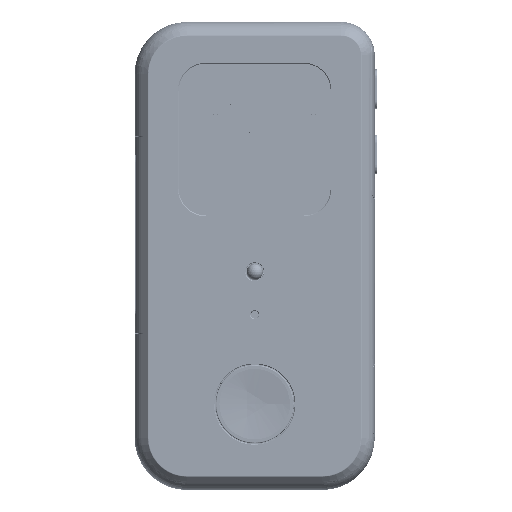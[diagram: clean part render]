
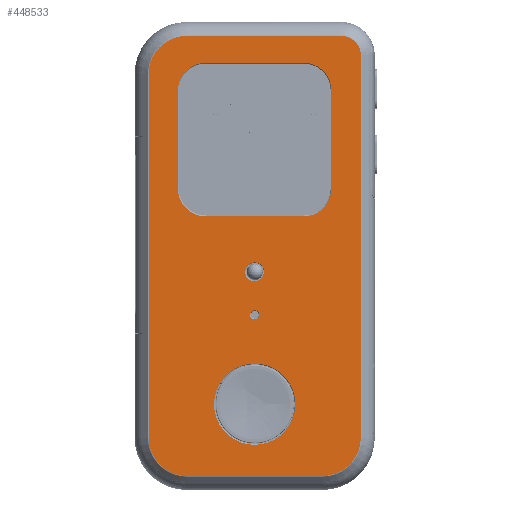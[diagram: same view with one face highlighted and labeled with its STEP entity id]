
A CAD part, top view. The second image highlights one B-rep face of the part: STEP entity #448533.
In plain terms, the highlighted planar face has unit normal (0, 0, 1).
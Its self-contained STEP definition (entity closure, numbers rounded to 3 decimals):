
#448001 = VERTEX_POINT('',#448002);
#448002 = CARTESIAN_POINT('',(21.,130.,19.4));
#448010 = VERTEX_POINT('',#448011);
#448011 = CARTESIAN_POINT('',(51.,130.,19.4));
#448017 = EDGE_CURVE('',#448001,#448010,#448018,.T.);
#448018 = LINE('',#448019,#448020);
#448019 = CARTESIAN_POINT('',(21.,130.,19.4));
#448020 = VECTOR('',#448021,1.);
#448021 = DIRECTION('',(1.,0.,0.));
#448466 = VERTEX_POINT('',#448467);
#448467 = CARTESIAN_POINT('',(59.5,121.5,19.4));
#448473 = EDGE_CURVE('',#448010,#448466,#448474,.T.);
#448474 = CIRCLE('',#448475,8.5);
#448475 = AXIS2_PLACEMENT_3D('',#448476,#448477,#448478);
#448476 = CARTESIAN_POINT('',(51.,121.5,19.4));
#448477 = DIRECTION('',(0.,0.,-1.));
#448478 = DIRECTION('',(0.,1.,0.));
#448513 = VERTEX_POINT('',#448514);
#448514 = CARTESIAN_POINT('',(12.5,121.5,19.4));
#448522 = EDGE_CURVE('',#448513,#448001,#448523,.T.);
#448523 = CIRCLE('',#448524,8.5);
#448524 = AXIS2_PLACEMENT_3D('',#448525,#448526,#448527);
#448525 = CARTESIAN_POINT('',(21.,121.5,19.4));
#448526 = DIRECTION('',(0.,0.,-1.));
#448527 = DIRECTION('',(-1.,0.,0.));
#448533 = ADVANCED_FACE('',(#448534,#448579,#448685,#448696,#448707),
  #448718,.T.);
#448534 = FACE_BOUND('',#448535,.T.);
#448535 = EDGE_LOOP('',(#448536,#448537,#448538,#448546,#448555,#448563,
    #448572,#448578));
#448536 = ORIENTED_EDGE('',*,*,#448017,.T.);
#448537 = ORIENTED_EDGE('',*,*,#448473,.T.);
#448538 = ORIENTED_EDGE('',*,*,#448539,.T.);
#448539 = EDGE_CURVE('',#448466,#448540,#448542,.T.);
#448540 = VERTEX_POINT('',#448541);
#448541 = CARTESIAN_POINT('',(59.5,91.5,19.4));
#448542 = LINE('',#448543,#448544);
#448543 = CARTESIAN_POINT('',(59.5,121.5,19.4));
#448544 = VECTOR('',#448545,1.);
#448545 = DIRECTION('',(0.,-1.,0.));
#448546 = ORIENTED_EDGE('',*,*,#448547,.T.);
#448547 = EDGE_CURVE('',#448540,#448548,#448550,.T.);
#448548 = VERTEX_POINT('',#448549);
#448549 = CARTESIAN_POINT('',(51.,83.,19.4));
#448550 = CIRCLE('',#448551,8.5);
#448551 = AXIS2_PLACEMENT_3D('',#448552,#448553,#448554);
#448552 = CARTESIAN_POINT('',(51.,91.5,19.4));
#448553 = DIRECTION('',(0.,0.,-1.));
#448554 = DIRECTION('',(1.,0.,0.));
#448555 = ORIENTED_EDGE('',*,*,#448556,.T.);
#448556 = EDGE_CURVE('',#448548,#448557,#448559,.T.);
#448557 = VERTEX_POINT('',#448558);
#448558 = CARTESIAN_POINT('',(21.,83.,19.4));
#448559 = LINE('',#448560,#448561);
#448560 = CARTESIAN_POINT('',(51.,83.,19.4));
#448561 = VECTOR('',#448562,1.);
#448562 = DIRECTION('',(-1.,-0.,-0.));
#448563 = ORIENTED_EDGE('',*,*,#448564,.T.);
#448564 = EDGE_CURVE('',#448557,#448565,#448567,.T.);
#448565 = VERTEX_POINT('',#448566);
#448566 = CARTESIAN_POINT('',(12.5,91.5,19.4));
#448567 = CIRCLE('',#448568,8.5);
#448568 = AXIS2_PLACEMENT_3D('',#448569,#448570,#448571);
#448569 = CARTESIAN_POINT('',(21.,91.5,19.4));
#448570 = DIRECTION('',(-0.,-0.,-1.));
#448571 = DIRECTION('',(0.,-1.,0.));
#448572 = ORIENTED_EDGE('',*,*,#448573,.T.);
#448573 = EDGE_CURVE('',#448565,#448513,#448574,.T.);
#448574 = LINE('',#448575,#448576);
#448575 = CARTESIAN_POINT('',(12.5,91.5,19.4));
#448576 = VECTOR('',#448577,1.);
#448577 = DIRECTION('',(0.,1.,0.));
#448578 = ORIENTED_EDGE('',*,*,#448522,.T.);
#448579 = FACE_BOUND('',#448580,.T.);
#448580 = EDGE_LOOP('',(#448581,#448592,#448600,#448609,#448617,#448626,
    #448634,#448643,#448651,#448660,#448669,#448678));
#448581 = ORIENTED_EDGE('',*,*,#448582,.F.);
#448582 = EDGE_CURVE('',#448583,#448585,#448587,.T.);
#448583 = VERTEX_POINT('',#448584);
#448584 = CARTESIAN_POINT('',(3.516,126.5,19.4));
#448585 = VERTEX_POINT('',#448586);
#448586 = CARTESIAN_POINT('',(3.516,126.541,19.4));
#448587 = CIRCLE('',#448588,11.734);
#448588 = AXIS2_PLACEMENT_3D('',#448589,#448590,#448591);
#448589 = CARTESIAN_POINT('',(15.25,126.5,19.4));
#448590 = DIRECTION('',(0.,-0.,-1.));
#448591 = DIRECTION('',(-1.,0.,0.));
#448592 = ORIENTED_EDGE('',*,*,#448593,.F.);
#448593 = EDGE_CURVE('',#448594,#448583,#448596,.T.);
#448594 = VERTEX_POINT('',#448595);
#448595 = CARTESIAN_POINT('',(3.516,15.25,19.4));
#448596 = LINE('',#448597,#448598);
#448597 = CARTESIAN_POINT('',(3.516,15.25,19.4));
#448598 = VECTOR('',#448599,1.);
#448599 = DIRECTION('',(0.,1.,0.));
#448600 = ORIENTED_EDGE('',*,*,#448601,.F.);
#448601 = EDGE_CURVE('',#448602,#448594,#448604,.T.);
#448602 = VERTEX_POINT('',#448603);
#448603 = CARTESIAN_POINT('',(15.25,3.516,19.4));
#448604 = CIRCLE('',#448605,11.734);
#448605 = AXIS2_PLACEMENT_3D('',#448606,#448607,#448608);
#448606 = CARTESIAN_POINT('',(15.25,15.25,19.4));
#448607 = DIRECTION('',(0.,-0.,-1.));
#448608 = DIRECTION('',(0.,-1.,0.));
#448609 = ORIENTED_EDGE('',*,*,#448610,.F.);
#448610 = EDGE_CURVE('',#448611,#448602,#448613,.T.);
#448611 = VERTEX_POINT('',#448612);
#448612 = CARTESIAN_POINT('',(56.75,3.516,19.4));
#448613 = LINE('',#448614,#448615);
#448614 = CARTESIAN_POINT('',(56.75,3.516,19.4));
#448615 = VECTOR('',#448616,1.);
#448616 = DIRECTION('',(-1.,0.,-0.));
#448617 = ORIENTED_EDGE('',*,*,#448618,.F.);
#448618 = EDGE_CURVE('',#448619,#448611,#448621,.T.);
#448619 = VERTEX_POINT('',#448620);
#448620 = CARTESIAN_POINT('',(68.484,15.25,19.4));
#448621 = CIRCLE('',#448622,11.734);
#448622 = AXIS2_PLACEMENT_3D('',#448623,#448624,#448625);
#448623 = CARTESIAN_POINT('',(56.75,15.25,19.4));
#448624 = DIRECTION('',(0.,0.,-1.));
#448625 = DIRECTION('',(1.,0.,0.));
#448626 = ORIENTED_EDGE('',*,*,#448627,.F.);
#448627 = EDGE_CURVE('',#448628,#448619,#448630,.T.);
#448628 = VERTEX_POINT('',#448629);
#448629 = CARTESIAN_POINT('',(68.484,132.25,19.4));
#448630 = LINE('',#448631,#448632);
#448631 = CARTESIAN_POINT('',(68.484,126.5,19.4));
#448632 = VECTOR('',#448633,1.);
#448633 = DIRECTION('',(0.,-1.,0.));
#448634 = ORIENTED_EDGE('',*,*,#448635,.F.);
#448635 = EDGE_CURVE('',#448636,#448628,#448638,.T.);
#448636 = VERTEX_POINT('',#448637);
#448637 = CARTESIAN_POINT('',(62.5,138.234,19.4));
#448638 = CIRCLE('',#448639,5.984);
#448639 = AXIS2_PLACEMENT_3D('',#448640,#448641,#448642);
#448640 = CARTESIAN_POINT('',(62.5,132.25,19.4));
#448641 = DIRECTION('',(0.,0.,-1.));
#448642 = DIRECTION('',(0.,1.,-0.));
#448643 = ORIENTED_EDGE('',*,*,#448644,.F.);
#448644 = EDGE_CURVE('',#448645,#448636,#448647,.T.);
#448645 = VERTEX_POINT('',#448646);
#448646 = CARTESIAN_POINT('',(15.25,138.234,19.4));
#448647 = LINE('',#448648,#448649);
#448648 = CARTESIAN_POINT('',(9.5,138.234,19.4));
#448649 = VECTOR('',#448650,1.);
#448650 = DIRECTION('',(1.,0.,0.));
#448651 = ORIENTED_EDGE('',*,*,#448652,.F.);
#448652 = EDGE_CURVE('',#448653,#448645,#448655,.T.);
#448653 = VERTEX_POINT('',#448654);
#448654 = CARTESIAN_POINT('',(3.678,128.443,19.4));
#448655 = CIRCLE('',#448656,11.734);
#448656 = AXIS2_PLACEMENT_3D('',#448657,#448658,#448659);
#448657 = CARTESIAN_POINT('',(15.25,126.5,19.4));
#448658 = DIRECTION('',(0.,-0.,-1.));
#448659 = DIRECTION('',(-1.,0.,0.));
#448660 = ORIENTED_EDGE('',*,*,#448661,.F.);
#448661 = EDGE_CURVE('',#448662,#448653,#448664,.T.);
#448662 = VERTEX_POINT('',#448663);
#448663 = CARTESIAN_POINT('',(3.605,127.943,19.4));
#448664 = CIRCLE('',#448665,11.734);
#448665 = AXIS2_PLACEMENT_3D('',#448666,#448667,#448668);
#448666 = CARTESIAN_POINT('',(15.25,126.5,19.4));
#448667 = DIRECTION('',(0.,-0.,-1.));
#448668 = DIRECTION('',(-1.,0.,0.));
#448669 = ORIENTED_EDGE('',*,*,#448670,.F.);
#448670 = EDGE_CURVE('',#448671,#448662,#448673,.T.);
#448671 = VERTEX_POINT('',#448672);
#448672 = CARTESIAN_POINT('',(3.531,127.08,19.4));
#448673 = CIRCLE('',#448674,11.734);
#448674 = AXIS2_PLACEMENT_3D('',#448675,#448676,#448677);
#448675 = CARTESIAN_POINT('',(15.25,126.5,19.4));
#448676 = DIRECTION('',(0.,0.,-1.));
#448677 = DIRECTION('',(-1.,0.,0.));
#448678 = ORIENTED_EDGE('',*,*,#448679,.F.);
#448679 = EDGE_CURVE('',#448585,#448671,#448680,.T.);
#448680 = CIRCLE('',#448681,11.734);
#448681 = AXIS2_PLACEMENT_3D('',#448682,#448683,#448684);
#448682 = CARTESIAN_POINT('',(15.25,126.5,19.4));
#448683 = DIRECTION('',(0.,-0.,-1.));
#448684 = DIRECTION('',(-1.,0.,0.));
#448685 = FACE_BOUND('',#448686,.T.);
#448686 = EDGE_LOOP('',(#448687));
#448687 = ORIENTED_EDGE('',*,*,#448688,.F.);
#448688 = EDGE_CURVE('',#448689,#448689,#448691,.T.);
#448689 = VERTEX_POINT('',#448690);
#448690 = CARTESIAN_POINT('',(48.45,25.5,19.4));
#448691 = CIRCLE('',#448692,12.45);
#448692 = AXIS2_PLACEMENT_3D('',#448693,#448694,#448695);
#448693 = CARTESIAN_POINT('',(36.,25.5,19.4));
#448694 = DIRECTION('',(0.,0.,1.));
#448695 = DIRECTION('',(1.,0.,0.));
#448696 = FACE_BOUND('',#448697,.T.);
#448697 = EDGE_LOOP('',(#448698));
#448698 = ORIENTED_EDGE('',*,*,#448699,.F.);
#448699 = EDGE_CURVE('',#448700,#448700,#448702,.T.);
#448700 = VERTEX_POINT('',#448701);
#448701 = CARTESIAN_POINT('',(38.9,66.,19.4));
#448702 = CIRCLE('',#448703,2.9);
#448703 = AXIS2_PLACEMENT_3D('',#448704,#448705,#448706);
#448704 = CARTESIAN_POINT('',(36.,66.,19.4));
#448705 = DIRECTION('',(0.,0.,1.));
#448706 = DIRECTION('',(1.,0.,0.));
#448707 = FACE_BOUND('',#448708,.T.);
#448708 = EDGE_LOOP('',(#448709));
#448709 = ORIENTED_EDGE('',*,*,#448710,.F.);
#448710 = EDGE_CURVE('',#448711,#448711,#448713,.T.);
#448711 = VERTEX_POINT('',#448712);
#448712 = CARTESIAN_POINT('',(37.4,52.875,19.4));
#448713 = CIRCLE('',#448714,1.4);
#448714 = AXIS2_PLACEMENT_3D('',#448715,#448716,#448717);
#448715 = CARTESIAN_POINT('',(36.,52.875,19.4));
#448716 = DIRECTION('',(0.,0.,1.));
#448717 = DIRECTION('',(1.,0.,0.));
#448718 = PLANE('',#448719);
#448719 = AXIS2_PLACEMENT_3D('',#448720,#448721,#448722);
#448720 = CARTESIAN_POINT('',(36.235,71.364,19.4));
#448721 = DIRECTION('',(0.,0.,1.));
#448722 = DIRECTION('',(1.,0.,0.));
